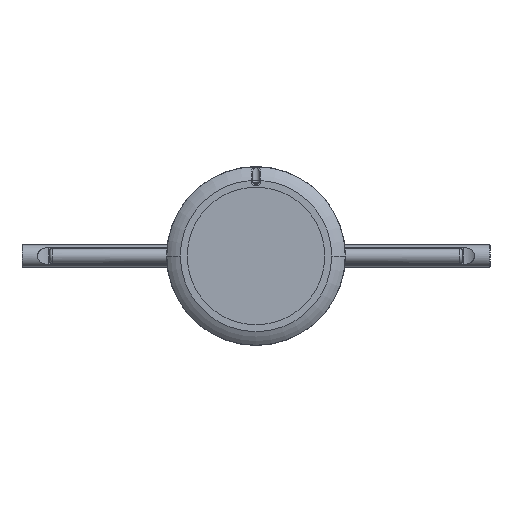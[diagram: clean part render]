
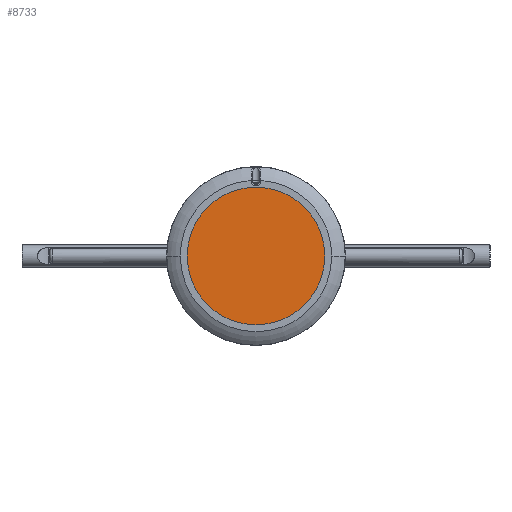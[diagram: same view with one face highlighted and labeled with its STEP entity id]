
A CAD part, front view. The second image highlights one B-rep face of the part: STEP entity #8733.
In plain terms, the highlighted planar face has unit normal (0, -1, 0).
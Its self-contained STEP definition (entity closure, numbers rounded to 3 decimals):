
#376 = ORIENTED_EDGE ( 'NONE', *, *, #1399, .T. ) ;
#648 = CARTESIAN_POINT ( 'NONE',  ( -50., -347.25, 0. ) ) ;
#905 = ORIENTED_EDGE ( 'NONE', *, *, #6231, .T. ) ;
#1152 = CARTESIAN_POINT ( 'NONE',  ( 0., -347.25, 0. ) ) ;
#1399 = EDGE_CURVE ( 'NONE', #8828, #7238, #2275, .T. ) ;
#1893 = AXIS2_PLACEMENT_3D ( 'NONE', #6664, #2544, #8736 ) ;
#2275 = CIRCLE ( 'NONE', #1893, 50. ) ;
#2544 = DIRECTION ( 'NONE',  ( 0., -1., 0. ) ) ;
#3448 = DIRECTION ( 'NONE',  ( -1., 0., 0. ) ) ;
#3677 = EDGE_LOOP ( 'NONE', ( #376, #905 ) ) ;
#4178 = DIRECTION ( 'NONE',  ( 0., -1., 0. ) ) ;
#4255 = CIRCLE ( 'NONE', #7591, 50. ) ;
#4745 = CARTESIAN_POINT ( 'NONE',  ( 0., -347.25, 0. ) ) ;
#5067 = FACE_OUTER_BOUND ( 'NONE', #3677, .T. ) ;
#5172 = DIRECTION ( 'NONE',  ( 0., -1., 0. ) ) ;
#6231 = EDGE_CURVE ( 'NONE', #7238, #8828, #4255, .T. ) ;
#6593 = CARTESIAN_POINT ( 'NONE',  ( 50., -347.25, 0. ) ) ;
#6648 = DIRECTION ( 'NONE',  ( -1., 0., 0. ) ) ;
#6664 = CARTESIAN_POINT ( 'NONE',  ( 0., -347.25, 0. ) ) ;
#7238 = VERTEX_POINT ( 'NONE', #6593 ) ;
#7342 = PLANE ( 'NONE',  #7746 ) ;
#7591 = AXIS2_PLACEMENT_3D ( 'NONE', #4745, #4178, #3448 ) ;
#7746 = AXIS2_PLACEMENT_3D ( 'NONE', #1152, #5172, #6648 ) ;
#8733 = ADVANCED_FACE ( 'NONE', ( #5067 ), #7342, .T. ) ;
#8736 = DIRECTION ( 'NONE',  ( -1., 0., 0. ) ) ;
#8828 = VERTEX_POINT ( 'NONE', #648 ) ;
